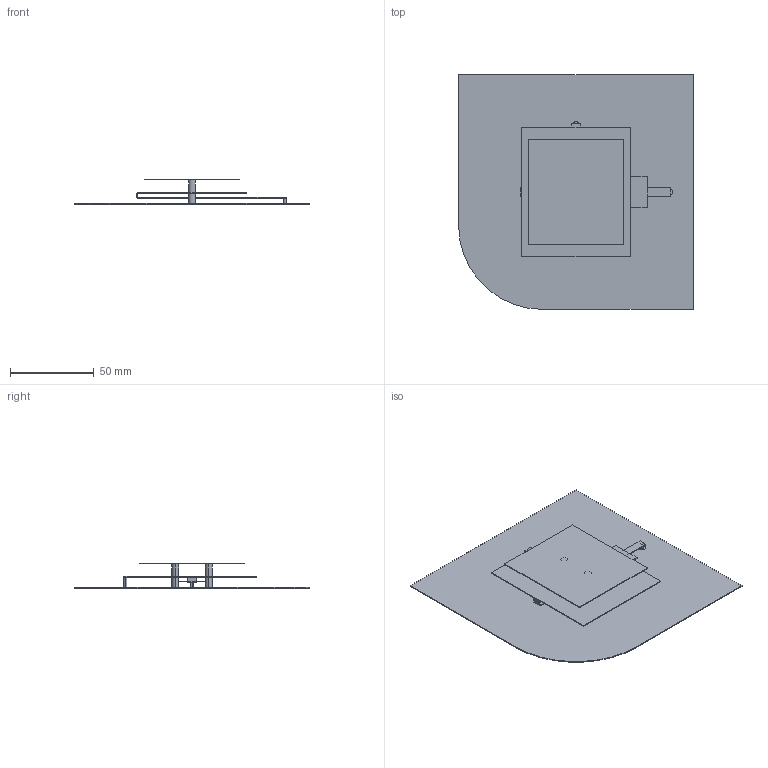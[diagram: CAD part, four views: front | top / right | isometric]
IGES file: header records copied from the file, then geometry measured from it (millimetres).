
Start section: 3D InterOp IGES (Version 21 0 0), Spatial Corp. Copyright (c) 1999-2007.
Global section: file name: ax2000offset_mimo_05mm.iges; native system: Spatial Corp.; preprocessor: 3D InterOp ACIS/IGES; author: Noname; organization: ANSOFT Corporation; date: 20150114.182248; units: millimetre
Bounding box: 140 x 140 x 15.5 mm (x, y, z)
Surface area: 57882.4 mm2 (no closed solid volume)
Topology: 0 solids, 0 shells, 93 faces, 354 edges, 354 vertices
Faces by surface type: extrusion 72, revolution 21
